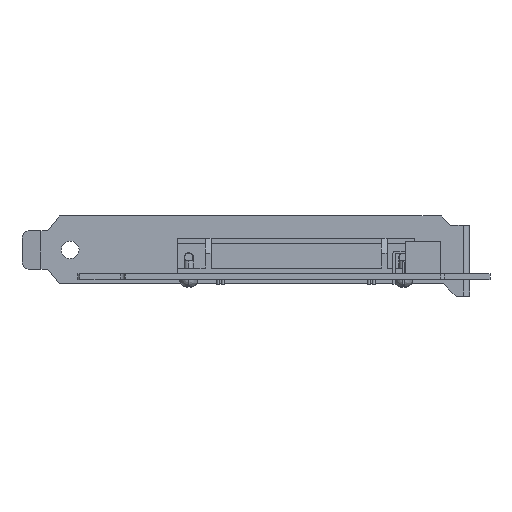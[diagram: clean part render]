
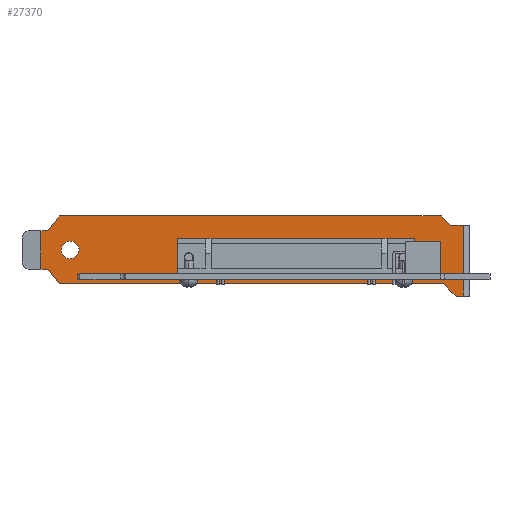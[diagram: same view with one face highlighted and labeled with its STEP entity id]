
A CAD part, left-side view. The second image highlights one B-rep face of the part: STEP entity #27370.
In plain terms, the highlighted planar face has unit normal (-1, 0, 0).
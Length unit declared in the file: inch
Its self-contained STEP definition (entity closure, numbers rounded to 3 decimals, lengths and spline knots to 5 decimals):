
#7512=DIRECTION('',(0.,0.,-1.));
#7513=VECTOR('',#7512,0.40551);
#7514=CARTESIAN_POINT('',(0.04957,-3.39924,0.43652));
#7515=LINE('',#7514,#7513);
#7548=DIRECTION('',(0.,0.,1.));
#7549=VECTOR('',#7548,0.412);
#7550=CARTESIAN_POINT('',(0.04957,0.56776,0.10776));
#7551=LINE('',#7550,#7549);
#7552=DIRECTION('',(0.,-1.,0.));
#7553=VECTOR('',#7552,0.074);
#7554=CARTESIAN_POINT('',(0.04957,0.56776,0.51976));
#7555=LINE('',#7554,#7553);
#7556=DIRECTION('',(0.,0.616,-0.788));
#7557=VECTOR('',#7556,0.1967);
#7558=CARTESIAN_POINT('',(0.04957,0.37266,
0.67476));
#7559=LINE('',#7558,#7557);
#7560=DIRECTION('',(0.,0.707,0.707));
#7561=VECTOR('',#7560,0.14142);
#7562=CARTESIAN_POINT('',(0.04957,-3.77924,0.57476));
#7563=LINE('',#7562,#7561);
#7564=DIRECTION('',(0.,1.,0.));
#7565=VECTOR('',#7564,0.137);
#7566=CARTESIAN_POINT('',(0.04957,-3.91624,0.57476));
#7567=LINE('',#7566,#7565);
#7568=DIRECTION('',(0.,0.,-1.));
#7569=VECTOR('',#7568,0.75);
#7570=CARTESIAN_POINT('',(0.04957,-3.91624,0.57476));
#7571=LINE('',#7570,#7569);
#7572=DIRECTION('',(0.,-0.707,-0.707));
#7573=VECTOR('',#7572,0.18102);
#7574=CARTESIAN_POINT('',(0.04957,-3.71024,-0.04724));
#7575=LINE('',#7574,#7573);
#7576=DIRECTION('',(0.,-1.,0.));
#7577=VECTOR('',#7576,4.0829);
#7578=CARTESIAN_POINT('',(0.04957,0.37266,
-0.04724));
#7579=LINE('',#7578,#7577);
#7580=DIRECTION('',(0.,-0.616,-0.788));
#7581=VECTOR('',#7580,0.1967);
#7582=CARTESIAN_POINT('',(0.04957,0.49376,0.10776));
#7583=LINE('',#7582,#7581);
#7584=DIRECTION('',(0.,-1.,0.));
#7585=VECTOR('',#7584,0.074);
#7586=CARTESIAN_POINT('',(0.04957,0.56776,0.10776));
#7587=LINE('',#7586,#7585);
#7588=CARTESIAN_POINT('',(0.04957,0.25676,0.31376));
#7589=DIRECTION('',(1.,0.,0.));
#7590=DIRECTION('',(0.,1.,0.));
#7591=AXIS2_PLACEMENT_3D('',#7588,#7589,#7590);
#7593=CARTESIAN_POINT('',(0.04957,0.25676,0.31376));
#7594=DIRECTION('',(1.,0.,0.));
#7595=DIRECTION('',(0.,-1.,0.));
#7596=AXIS2_PLACEMENT_3D('',#7593,#7594,#7595);
#7644=DIRECTION('',(0.,1.,0.));
#7645=VECTOR('',#7644,0.078);
#7646=CARTESIAN_POINT('',(0.04957,-3.91624,-0.17524));
#7647=LINE('',#7646,#7645);
#8020=DIRECTION('',(0.,1.,0.));
#8021=VECTOR('',#8020,4.0519);
#8022=CARTESIAN_POINT('',(0.04957,-3.67924,0.67476));
#8023=LINE('',#8022,#8021);
#9369=DIRECTION('',(0.,0.,1.));
#9370=VECTOR('',#9369,0.40551);
#9371=CARTESIAN_POINT('',(0.04957,-0.88324,0.031));
#9372=LINE('',#9371,#9370);
#9397=DIRECTION('',(0.,1.,0.));
#9398=VECTOR('',#9397,2.516);
#9399=CARTESIAN_POINT('',(0.04957,-3.39924,0.43652));
#9400=LINE('',#9399,#9398);
#9441=DIRECTION('',(0.,1.,0.));
#9442=VECTOR('',#9441,2.516);
#9443=CARTESIAN_POINT('',(0.04957,-3.39924,0.031));
#9444=LINE('',#9443,#9442);
#17437=CARTESIAN_POINT('',(0.04957,-3.91624,-0.17524));
#17439=VERTEX_POINT('',#17437);
#17440=CARTESIAN_POINT('',(0.04957,-3.91624,0.57476));
#17442=VERTEX_POINT('',#17440);
#17444=CARTESIAN_POINT('',(0.04957,-3.77924,0.57476));
#17445=VERTEX_POINT('',#17444);
#17446=CARTESIAN_POINT('',(0.04957,-3.67924,0.67476));
#17447=VERTEX_POINT('',#17446);
#17448=CARTESIAN_POINT('',(0.04957,0.49376,0.10776));
#17449=CARTESIAN_POINT('',(0.04957,0.37266,
-0.04724));
#17450=VERTEX_POINT('',#17448);
#17451=VERTEX_POINT('',#17449);
#17452=CARTESIAN_POINT('',(0.04957,-3.71024,-0.04724));
#17453=VERTEX_POINT('',#17452);
#17454=CARTESIAN_POINT('',(0.04957,-3.83824,-0.17524));
#17455=VERTEX_POINT('',#17454);
#17456=CARTESIAN_POINT('',(0.04957,0.37266,
0.67476));
#17457=CARTESIAN_POINT('',(0.04957,0.49376,0.51976));
#17458=VERTEX_POINT('',#17456);
#17459=VERTEX_POINT('',#17457);
#17568=CARTESIAN_POINT('',(0.04957,0.35026,0.31376));
#17569=CARTESIAN_POINT('',(0.04957,0.16326,0.31376));
#17570=VERTEX_POINT('',#17568);
#17571=VERTEX_POINT('',#17569);
#17572=CARTESIAN_POINT('',(0.04957,0.56776,0.10776));
#17573=VERTEX_POINT('',#17572);
#17574=CARTESIAN_POINT('',(0.04957,0.56776,0.51976));
#17575=VERTEX_POINT('',#17574);
#17620=CARTESIAN_POINT('',(0.04957,-0.88324,0.031));
#17621=CARTESIAN_POINT('',(0.04957,-0.88324,0.43652));
#17622=VERTEX_POINT('',#17620);
#17623=VERTEX_POINT('',#17621);
#17624=CARTESIAN_POINT('',(0.04957,-3.39924,0.43652));
#17625=CARTESIAN_POINT('',(0.04957,-3.39924,0.031));
#17626=VERTEX_POINT('',#17624);
#17627=VERTEX_POINT('',#17625);
#27324=CARTESIAN_POINT('',(0.04957,-3.91624,0.67476));
#27325=DIRECTION('',(1.,0.,0.));
#27326=DIRECTION('',(0.,1.,0.));
#27327=AXIS2_PLACEMENT_3D('',#27324,#27325,#27326);
#27328=PLANE('',#27327);
#27330=ORIENTED_EDGE('',*,*,#27329,.T.);
#27332=ORIENTED_EDGE('',*,*,#27331,.T.);
#27334=ORIENTED_EDGE('',*,*,#27333,.F.);
#27336=ORIENTED_EDGE('',*,*,#27335,.F.);
#27338=ORIENTED_EDGE('',*,*,#27337,.F.);
#27340=ORIENTED_EDGE('',*,*,#27339,.F.);
#27342=ORIENTED_EDGE('',*,*,#27341,.T.);
#27344=ORIENTED_EDGE('',*,*,#27343,.T.);
#27346=ORIENTED_EDGE('',*,*,#27345,.F.);
#27348=ORIENTED_EDGE('',*,*,#27347,.F.);
#27350=ORIENTED_EDGE('',*,*,#27349,.F.);
#27352=ORIENTED_EDGE('',*,*,#27351,.F.);
#27353=EDGE_LOOP('',(#27330,#27332,#27334,#27336,#27338,#27340,#27342,#27344,
#27346,#27348,#27350,#27352));
#27354=FACE_OUTER_BOUND('',#27353,.F.);
#27356=ORIENTED_EDGE('',*,*,#27355,.F.);
#27358=ORIENTED_EDGE('',*,*,#27357,.F.);
#27359=EDGE_LOOP('',(#27356,#27358));
#27360=FACE_BOUND('',#27359,.F.);
#27362=ORIENTED_EDGE('',*,*,#27361,.F.);
#27364=ORIENTED_EDGE('',*,*,#27363,.F.);
#27365=ORIENTED_EDGE('',*,*,#27301,.F.);
#27367=ORIENTED_EDGE('',*,*,#27366,.T.);
#27368=EDGE_LOOP('',(#27362,#27364,#27365,#27367));
#27369=FACE_BOUND('',#27368,.F.);
#27370=ADVANCED_FACE('',(#27354,#27360,#27369),#27328,.F.);
#7592=CIRCLE('',#7591,0.0935);
#7597=CIRCLE('',#7596,0.0935);
#27301=EDGE_CURVE('',#17626,#17627,#7515,.T.);
#27329=EDGE_CURVE('',#17573,#17575,#7551,.T.);
#27331=EDGE_CURVE('',#17575,#17459,#7555,.T.);
#27333=EDGE_CURVE('',#17458,#17459,#7559,.T.);
#27335=EDGE_CURVE('',#17447,#17458,#8023,.T.);
#27337=EDGE_CURVE('',#17445,#17447,#7563,.T.);
#27339=EDGE_CURVE('',#17442,#17445,#7567,.T.);
#27341=EDGE_CURVE('',#17442,#17439,#7571,.T.);
#27343=EDGE_CURVE('',#17439,#17455,#7647,.T.);
#27345=EDGE_CURVE('',#17453,#17455,#7575,.T.);
#27347=EDGE_CURVE('',#17451,#17453,#7579,.T.);
#27349=EDGE_CURVE('',#17450,#17451,#7583,.T.);
#27351=EDGE_CURVE('',#17573,#17450,#7587,.T.);
#27355=EDGE_CURVE('',#17570,#17571,#7592,.T.);
#27357=EDGE_CURVE('',#17571,#17570,#7597,.T.);
#27361=EDGE_CURVE('',#17622,#17623,#9372,.T.);
#27363=EDGE_CURVE('',#17627,#17622,#9444,.T.);
#27366=EDGE_CURVE('',#17626,#17623,#9400,.T.);
